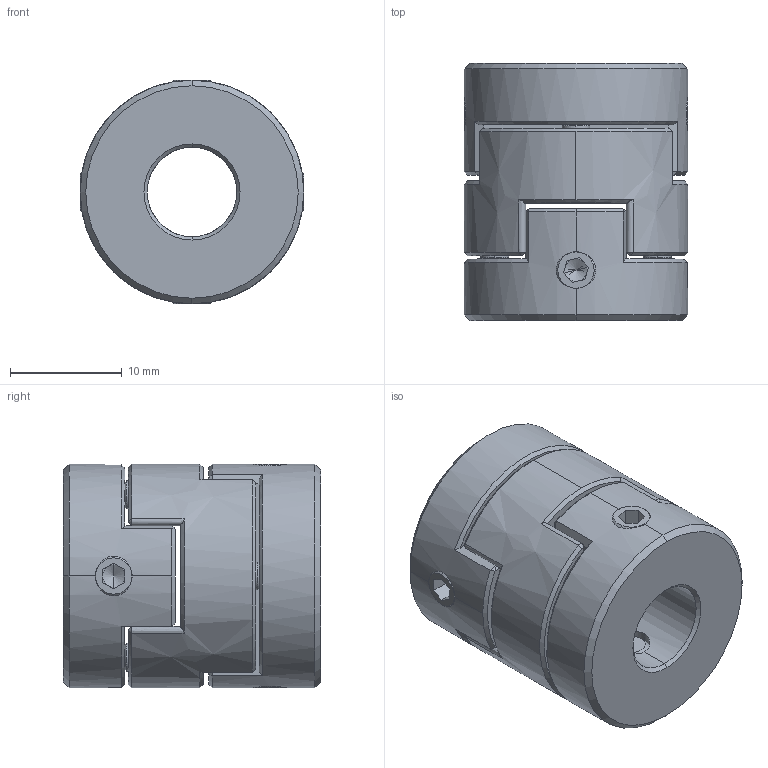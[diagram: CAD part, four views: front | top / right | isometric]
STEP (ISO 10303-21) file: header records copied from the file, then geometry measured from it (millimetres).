
FILE_DESCRIPTION (( 'STEP AP203' ), '1' );
FILE_NAME ('LZ-D-D20L23-8-8.STEP', '2021-10-30T01:47:02', ( '' ), ( '' ), 'SwSTEP 2.0', 'SolidWorks 2018', '' );
FILE_SCHEMA (( 'CONFIG_CONTROL_DESIGN' ));
Length unit declared in the file: millimetre
Products named in the file (1): LZ-D-D20L23-8-8
Bounding box: 20 x 23 x 20 mm (x, y, z)
Volume: 5768.9 mm3; surface area: 4107.5 mm2
Topology: 3 solids, 3 shells, 232 faces, 598 edges, 372 vertices
Faces by surface type: plane 118, cone 54, cylinder 34, bspline 26
Entity records: 9865 total; most frequent: CARTESIAN_POINT 4497, ORIENTED_EDGE 1180, DIRECTION 994, EDGE_CURVE 590, VERTEX_POINT 372, AXIS2_PLACEMENT_3D 363, VECTOR 268, LINE 268
